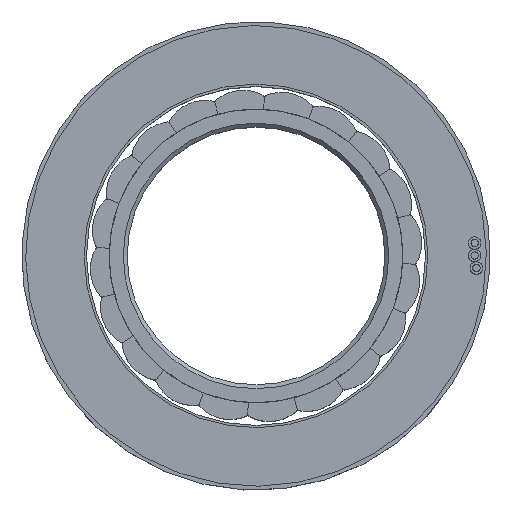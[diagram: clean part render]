
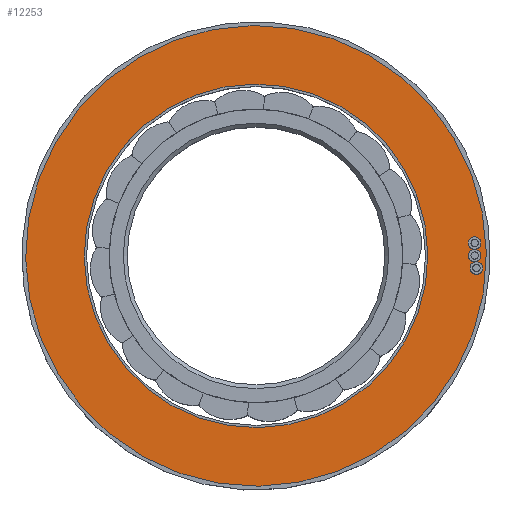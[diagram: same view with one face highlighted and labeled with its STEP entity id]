
A CAD part, top view. The second image highlights one B-rep face of the part: STEP entity #12253.
In plain terms, the highlighted planar face has unit normal (0, 0, 1).
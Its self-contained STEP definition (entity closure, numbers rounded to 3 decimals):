
#1840 = CARTESIAN_POINT ( 'NONE',  ( 0., 0., 14.7 ) ) ;
#1999 = FACE_BOUND ( 'NONE', #22025, .T. ) ;
#4346 = DIRECTION ( 'NONE',  ( 0.872, -0.489, 0. ) ) ;
#5189 = EDGE_CURVE ( 'NONE', #12953, #12953, #16110, .T. ) ;
#6624 = CARTESIAN_POINT ( 'NONE',  ( 25.732, -14.425, 14.7 ) ) ;
#9412 = CARTESIAN_POINT ( 'NONE',  ( 0., 0., 14.7 ) ) ;
#11455 = DIRECTION ( 'NONE',  ( 0., 0., 1. ) ) ;
#11872 = CARTESIAN_POINT ( 'NONE',  ( 0., 0., 14.7 ) ) ;
#12138 = AXIS2_PLACEMENT_3D ( 'NONE', #9412, #11455, #18943 ) ;
#12253 = ADVANCED_FACE ( 'NONE', ( #16044, #1999 ), #27942, .T. ) ;
#12953 = VERTEX_POINT ( 'NONE', #22481 ) ;
#14371 = EDGE_LOOP ( 'NONE', ( #24494 ) ) ;
#15589 = ORIENTED_EDGE ( 'NONE', *, *, #5189, .F. ) ;
#16044 = FACE_OUTER_BOUND ( 'NONE', #14371, .T. ) ;
#16110 = CIRCLE ( 'NONE', #12138, 22. ) ;
#18530 = DIRECTION ( 'NONE',  ( 0., 0., 1. ) ) ;
#18736 = EDGE_CURVE ( 'NONE', #25513, #25513, #20774, .T. ) ;
#18943 = DIRECTION ( 'NONE',  ( 0.872, -0.489, 0. ) ) ;
#20774 = CIRCLE ( 'NONE', #29273, 29.5 ) ;
#22025 = EDGE_LOOP ( 'NONE', ( #15589 ) ) ;
#22481 = CARTESIAN_POINT ( 'NONE',  ( 19.19, -10.758, 14.7 ) ) ;
#24494 = ORIENTED_EDGE ( 'NONE', *, *, #18736, .T. ) ;
#25513 = VERTEX_POINT ( 'NONE', #6624 ) ;
#26293 = AXIS2_PLACEMENT_3D ( 'NONE', #1840, #18530, #4346 ) ;
#27942 = PLANE ( 'NONE',  #26293 ) ;
#28597 = DIRECTION ( 'NONE',  ( 0., 0., 1. ) ) ;
#29273 = AXIS2_PLACEMENT_3D ( 'NONE', #11872, #28597, #30921 ) ;
#30921 = DIRECTION ( 'NONE',  ( 0.872, -0.489, 0. ) ) ;
